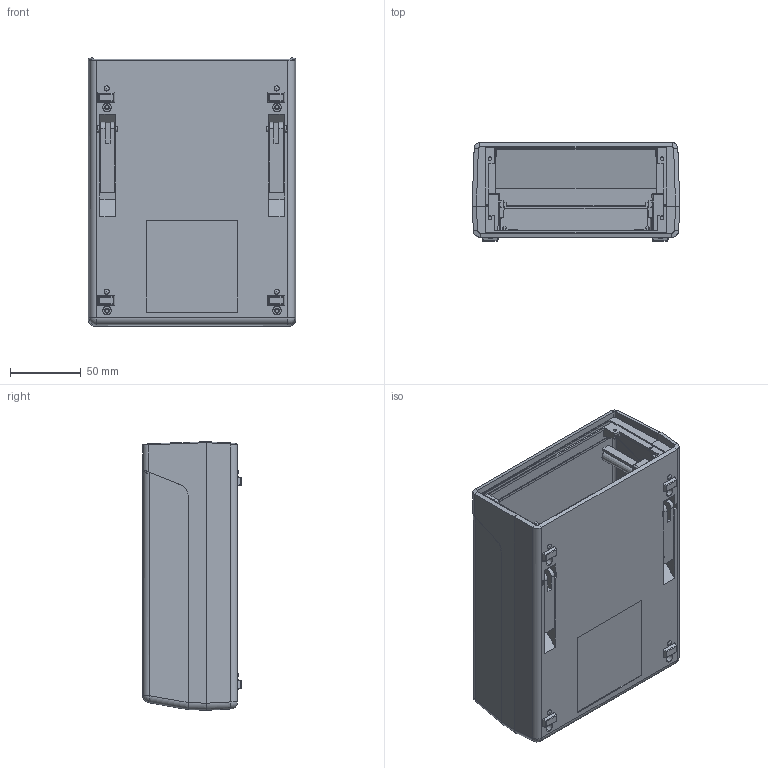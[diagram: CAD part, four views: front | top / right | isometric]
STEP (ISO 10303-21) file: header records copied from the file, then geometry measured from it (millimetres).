
FILE_DESCRIPTION (( 'STEP AP214' ), '1' );
FILE_NAME ('PRO 737 Assembly.STEP', '2023-11-30T14:40:03', ( 'rfkube@comcast.net' ), ( '' ), 'SwSTEP 2.0', 'SolidWorks 2016', '' );
FILE_SCHEMA (( 'AUTOMOTIVE_DESIGN' ));
Length unit declared in the file: millimetre
Products named in the file (6): Tilt foot; Pro 737 Insert; PRO 737 Top; Rubber foot; PRO 737 Bottom ; PRO 737 Assembly
Assembly tree (9 placements, depth 2):
  PRO 737 Assembly
    PRO 737 Bottom 
    Pro 737 Insert
    PRO 737 Top
    Tilt foot  x2
    Rubber foot  x4
Bounding box: 147 x 69.6 x 190 mm (x, y, z)
Volume: 293139.9 mm3; surface area: 232978.1 mm2
Topology: 10 solids, 10 shells, 1213 faces, 3201 edges, 2012 vertices
Faces by surface type: plane 749, cylinder 340, sphere 56, cone 32, bspline 32, torus 4
Entity records: 33965 total; most frequent: CARTESIAN_POINT 7500, ORIENTED_EDGE 5608, DIRECTION 5222, EDGE_CURVE 2804, VECTOR 2024, LINE 2024, VERTEX_POINT 1804, AXIS2_PLACEMENT_3D 1599
